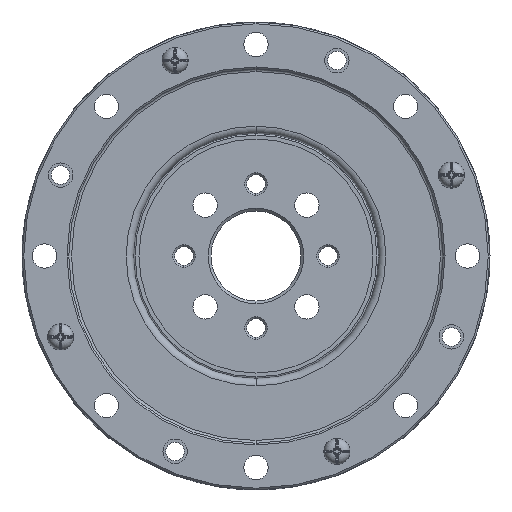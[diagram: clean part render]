
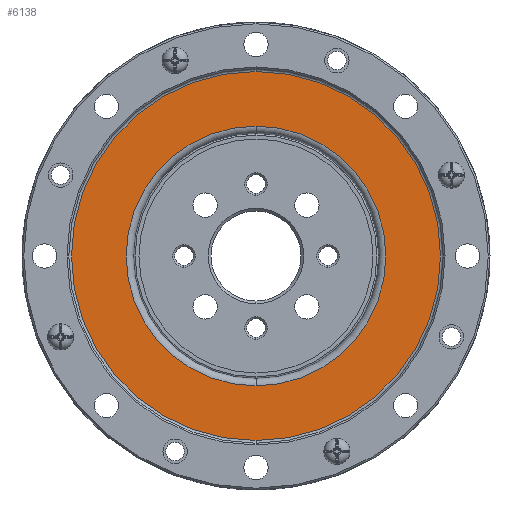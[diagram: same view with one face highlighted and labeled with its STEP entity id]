
A CAD part, left-side view. The second image highlights one B-rep face of the part: STEP entity #6138.
In plain terms, the highlighted planar face has unit normal (-1, 0, 0).
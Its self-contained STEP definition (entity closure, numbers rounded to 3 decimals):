
#498 = PLANE ( 'NONE',  #13758 ) ;
#596 = FACE_OUTER_BOUND ( 'NONE', #2763, .T. ) ;
#1561 = ORIENTED_EDGE ( 'NONE', *, *, #16899, .T. ) ;
#2225 = CIRCLE ( 'NONE', #13238, 20.5 ) ;
#2763 = EDGE_LOOP ( 'NONE', ( #10862, #3822 ) ) ;
#3173 = VERTEX_POINT ( 'NONE', #13278 ) ;
#3432 = CIRCLE ( 'NONE', #11349, 14.43 ) ;
#3650 = CARTESIAN_POINT ( 'NONE',  ( -12.222, 0., 0. ) ) ;
#3822 = ORIENTED_EDGE ( 'NONE', *, *, #3903, .F. ) ;
#3871 = VERTEX_POINT ( 'NONE', #14970 ) ;
#3903 = EDGE_CURVE ( 'NONE', #13603, #3871, #7479, .T. ) ;
#5523 = FACE_BOUND ( 'NONE', #8404, .T. ) ;
#5858 = EDGE_CURVE ( 'NONE', #3871, #13603, #2225, .T. ) ;
#5931 = DIRECTION ( 'NONE',  ( 0., 0., -1. ) ) ;
#6138 = ADVANCED_FACE ( 'NONE', ( #596, #5523 ), #498, .F. ) ;
#6813 = DIRECTION ( 'NONE',  ( 1., 0., 0. ) ) ;
#7087 = AXIS2_PLACEMENT_3D ( 'NONE', #3650, #9910, #5931 ) ;
#7089 = CARTESIAN_POINT ( 'NONE',  ( -12.222, -20.5, 0. ) ) ;
#7479 = CIRCLE ( 'NONE', #7087, 20.5 ) ;
#7624 = ORIENTED_EDGE ( 'NONE', *, *, #7631, .T. ) ;
#7631 = EDGE_CURVE ( 'NONE', #3173, #14327, #3432, .T. ) ;
#7762 = DIRECTION ( 'NONE',  ( 1., 0., 0. ) ) ;
#8338 = DIRECTION ( 'NONE',  ( 0., 0., -1. ) ) ;
#8357 = CIRCLE ( 'NONE', #13907, 14.43 ) ;
#8404 = EDGE_LOOP ( 'NONE', ( #1561, #7624 ) ) ;
#9510 = DIRECTION ( 'NONE',  ( 1., 0., 0. ) ) ;
#9840 = DIRECTION ( 'NONE',  ( 0., 0., -1. ) ) ;
#9910 = DIRECTION ( 'NONE',  ( 1., 0., 0. ) ) ;
#10862 = ORIENTED_EDGE ( 'NONE', *, *, #5858, .F. ) ;
#11349 = AXIS2_PLACEMENT_3D ( 'NONE', #15572, #7762, #16908 ) ;
#13238 = AXIS2_PLACEMENT_3D ( 'NONE', #13781, #14916, #9840 ) ;
#13278 = CARTESIAN_POINT ( 'NONE',  ( -12.222, 0., 14.43 ) ) ;
#13603 = VERTEX_POINT ( 'NONE', #15194 ) ;
#13758 = AXIS2_PLACEMENT_3D ( 'NONE', #7089, #9510, #8338 ) ;
#13781 = CARTESIAN_POINT ( 'NONE',  ( -12.222, 0., 0. ) ) ;
#13907 = AXIS2_PLACEMENT_3D ( 'NONE', #14642, #6813, #15978 ) ;
#14327 = VERTEX_POINT ( 'NONE', #15625 ) ;
#14642 = CARTESIAN_POINT ( 'NONE',  ( -12.222, 0., 0. ) ) ;
#14916 = DIRECTION ( 'NONE',  ( 1., 0., 0. ) ) ;
#14970 = CARTESIAN_POINT ( 'NONE',  ( -12.222, 0., -20.5 ) ) ;
#15194 = CARTESIAN_POINT ( 'NONE',  ( -12.222, 0., 20.5 ) ) ;
#15572 = CARTESIAN_POINT ( 'NONE',  ( -12.222, 0., 0. ) ) ;
#15625 = CARTESIAN_POINT ( 'NONE',  ( -12.222, 0., -14.43 ) ) ;
#15978 = DIRECTION ( 'NONE',  ( 0., 0., -1. ) ) ;
#16899 = EDGE_CURVE ( 'NONE', #14327, #3173, #8357, .T. ) ;
#16908 = DIRECTION ( 'NONE',  ( 0., 0., -1. ) ) ;
